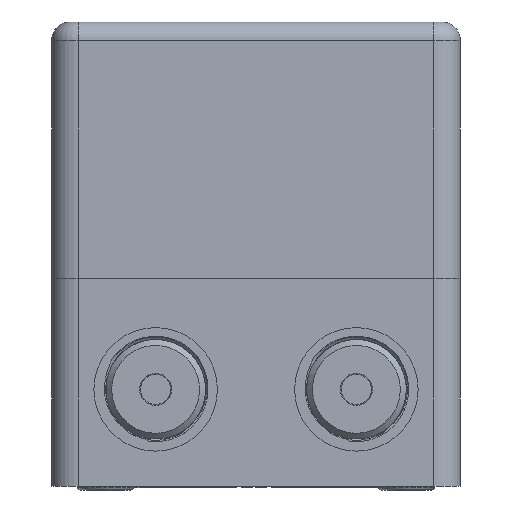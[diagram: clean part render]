
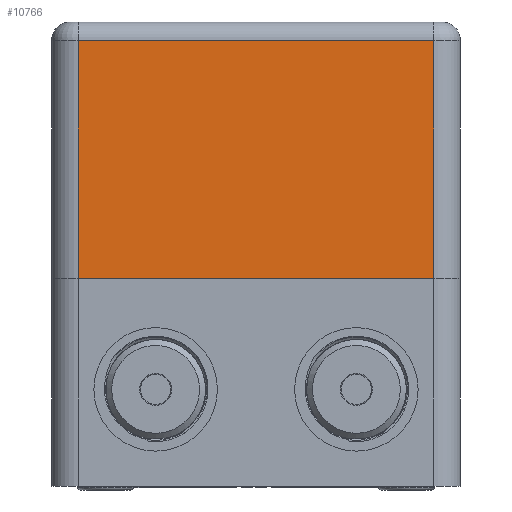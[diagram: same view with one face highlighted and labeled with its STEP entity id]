
A CAD part, front view. The second image highlights one B-rep face of the part: STEP entity #10766.
In plain terms, the highlighted planar face has unit normal (0, -1, 0).
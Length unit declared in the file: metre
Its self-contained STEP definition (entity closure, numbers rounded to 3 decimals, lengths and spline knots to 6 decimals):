
#10706=CARTESIAN_POINT('',(-0.0334,-0.06805,0.039));
#10707=VERTEX_POINT('',#10706);
#10710=CARTESIAN_POINT('',(-0.0334,-0.06805,0.0849));
#10711=DIRECTION('',(0.,0.,1.));
#10712=VECTOR('',#10711,1.);
#10713=LINE('',#10710,#10712);
#10714=CARTESIAN_POINT('',(-0.0334,-0.06805,0.0837));
#10715=VERTEX_POINT('',#10714);
#10716=EDGE_CURVE('',#10707,#10715,#10713,.T.);
#10736=CARTESIAN_POINT('',(0.0384,-0.06805,0.0849));
#10737=DIRECTION('',(0.,-1.,0.));
#10738=DIRECTION('',(1.,0.,0.));
#10739=AXIS2_PLACEMENT_3D('',#10736,#10737,#10738);
#10740=PLANE('',#10739);
#10741=ORIENTED_EDGE('',*,*,#10716,.F.);
#10742=CARTESIAN_POINT('',(0.0334,-0.06805,0.039));
#10743=DIRECTION('',(-1.,0.,0.));
#10744=VECTOR('',#10743,1.);
#10745=LINE('',#10742,#10744);
#10746=CARTESIAN_POINT('',(0.0334,-0.06805,0.039));
#10747=VERTEX_POINT('',#10746);
#10748=EDGE_CURVE('',#10747,#10707,#10745,.T.);
#10749=ORIENTED_EDGE('',*,*,#10748,.F.);
#10750=CARTESIAN_POINT('',(0.0334,-0.06805,0.0849));
#10751=DIRECTION('',(0.,0.,1.));
#10752=VECTOR('',#10751,1.);
#10753=LINE('',#10750,#10752);
#10754=CARTESIAN_POINT('',(0.0334,-0.06805,0.0837));
#10755=VERTEX_POINT('',#10754);
#10756=EDGE_CURVE('',#10747,#10755,#10753,.T.);
#10757=ORIENTED_EDGE('',*,*,#10756,.T.);
#10758=CARTESIAN_POINT('',(-0.0334,-0.06805,0.0837));
#10759=DIRECTION('',(1.,0.,0.));
#10760=VECTOR('',#10759,1.);
#10761=LINE('',#10758,#10760);
#10762=EDGE_CURVE('',#10715,#10755,#10761,.T.);
#10763=ORIENTED_EDGE('',*,*,#10762,.F.);
#10764=EDGE_LOOP('',(#10741,#10749,#10757,#10763));
#10765=FACE_BOUND('',#10764,.T.);
#10766=ADVANCED_FACE('',(#10765),#10740,.T.);
